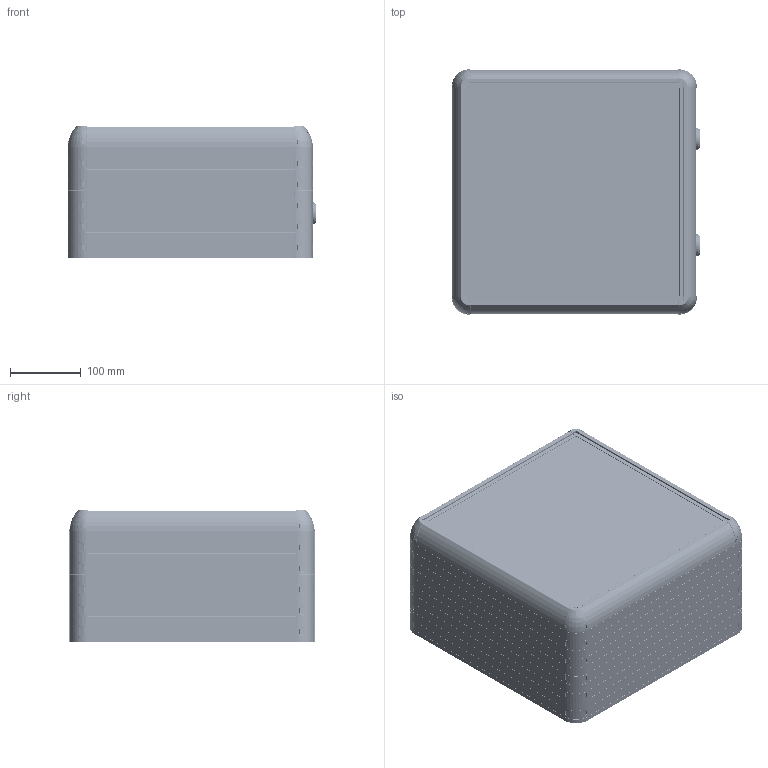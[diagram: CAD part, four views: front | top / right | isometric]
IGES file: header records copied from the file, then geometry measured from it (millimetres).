
Start section: SolidWorks IGES file using analytic representation for surfaces
Global section: file name: D:\PANO_STEP\9090\9090 datalar\9090-0005.IGS; native system: SolidWorks 2022; preprocessor: SolidWorks 2022; author: User; date: 220421.140045; units: millimetre
Bounding box: 351.78 x 347 x 187.09 mm (x, y, z)
Surface area: 1331507.1 mm2 (no closed solid volume)
Topology: 0 solids, 0 shells, 9014 faces, 74610 edges, 74394 vertices
Faces by surface type: bspline 6016, revolution 2998
